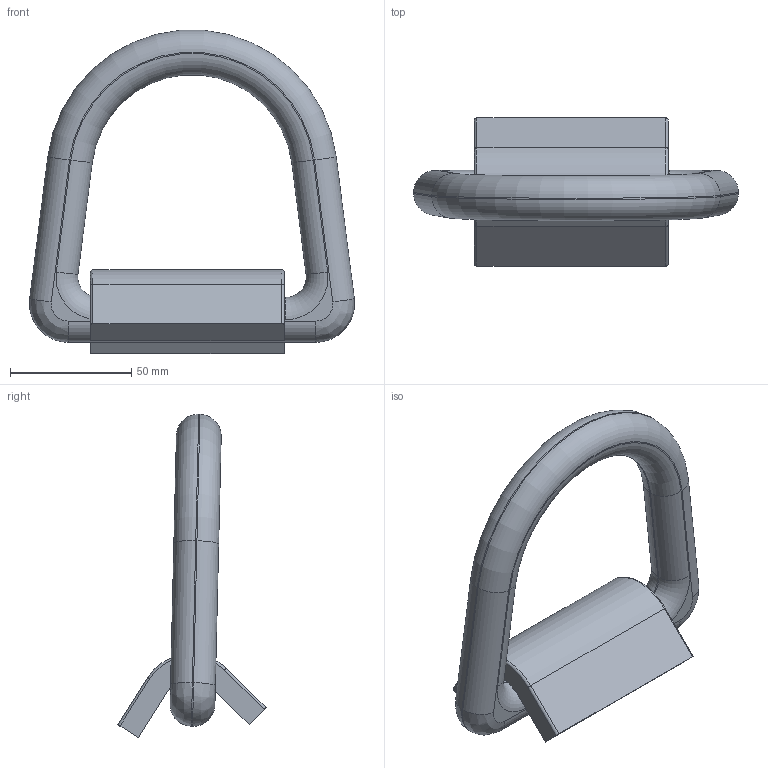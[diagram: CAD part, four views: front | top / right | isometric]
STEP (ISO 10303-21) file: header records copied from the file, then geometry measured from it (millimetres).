
FILE_DESCRIPTION(/* description */ (''),/* implementation_level */ '2;1');
FILE_NAME(/* name */ 'O:\ils2000\Natallia\INVENTOR\AutoCAD stp\NAVACQS\LP-13.stp',/* time_stamp */ '2016-08-12T11:53:36+02:00',/* author */ ('natallia'),/* organization */ (''),/* preprocessor_version */ 'ST-DEVELOPER v16.5',/* originating_system */ 'Autodesk Inventor 2017',/* authorisation */ '');
FILE_SCHEMA (('AUTOMOTIVE_DESIGN { 1 0 10303 214 3 1 1 }'));
Length unit declared in the file: millimetre
Products named in the file (3): LP-13 U; LP-13 R; LP-13 P
Assembly tree (2 placements, depth 2):
  LP-13 U
    LP-13 R
    LP-13 P
Bounding box: 134.23 x 61.16 x 133.45 mm (x, y, z)
Volume: 167055.6 mm3; surface area: 37709.6 mm2
Topology: 2 solids, 2 shells, 54 faces, 122 edges, 72 vertices
Faces by surface type: cylinder 24, plane 16, torus 10, bspline 4
Entity records: 1645 total; most frequent: CARTESIAN_POINT 309, DIRECTION 294, ORIENTED_EDGE 244, EDGE_CURVE 122, AXIS2_PLACEMENT_3D 117, VERTEX_POINT 72, CIRCLE 62, LINE 60
